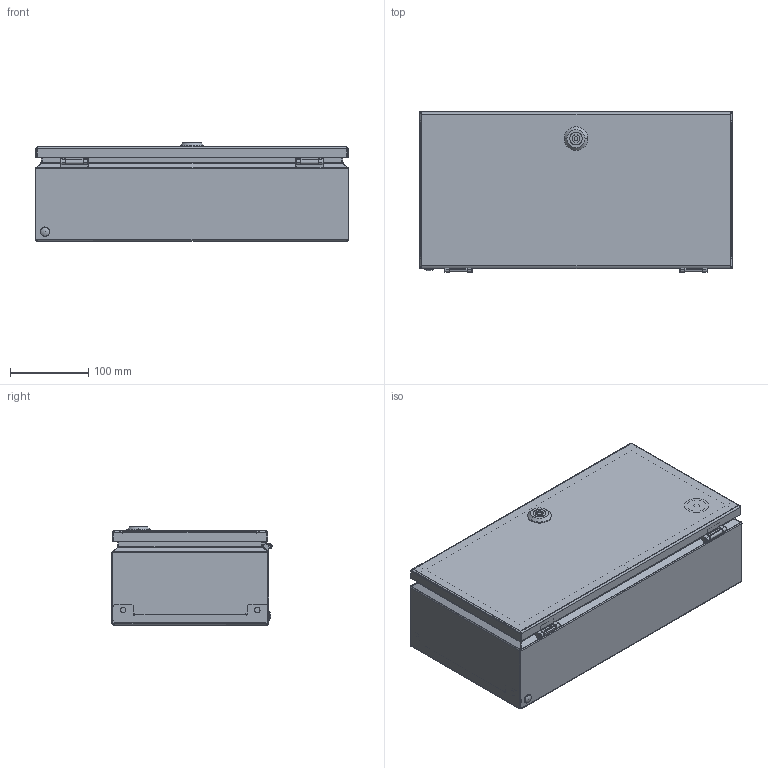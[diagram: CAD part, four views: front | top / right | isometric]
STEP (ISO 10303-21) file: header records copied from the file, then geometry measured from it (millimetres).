
FILE_DESCRIPTION (( 'STEP AP214' ), '1' );
FILE_NAME ('CCS 20.40.12-JG Ñèãíàëüíûé øêàô÷èê.STEP', '2023-04-11T10:01:19', ( '' ), ( '' ), 'SwSTEP 2.0', 'SolidWorks 2019', '' );
FILE_SCHEMA (( 'AUTOMOTIVE_DESIGN' ));
Length unit declared in the file: millimetre
Products named in the file (1): CCS 20.40.12-JG Ñèãíàëüíûé øêàô÷èê
Bounding box: 400 x 204.51 x 125.19 mm (x, y, z)
Volume: 595411.5 mm3; surface area: 836688.5 mm2
Topology: 24 solids, 24 shells, 1498 faces, 3942 edges, 2441 vertices
Faces by surface type: plane 659, cylinder 549, bspline 160, cone 94, torus 35, sphere 1
Entity records: 79408 total; most frequent: CARTESIAN_POINT 27126, ORIENTED_EDGE 7774, DIRECTION 6992, EDGE_CURVE 3887, AXIS2_PLACEMENT_3D 2450, VERTEX_POINT 2439, LINE 2092, VECTOR 2092
